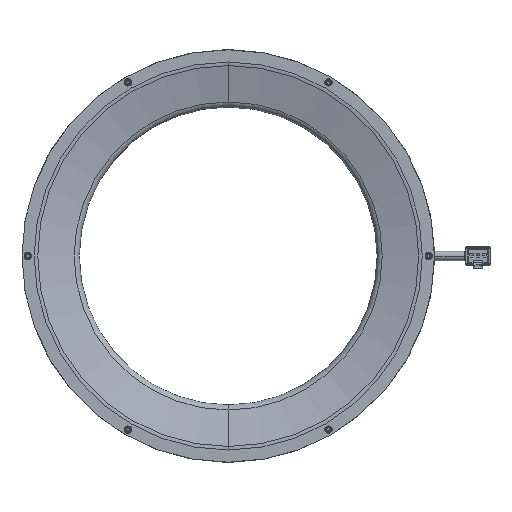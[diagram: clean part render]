
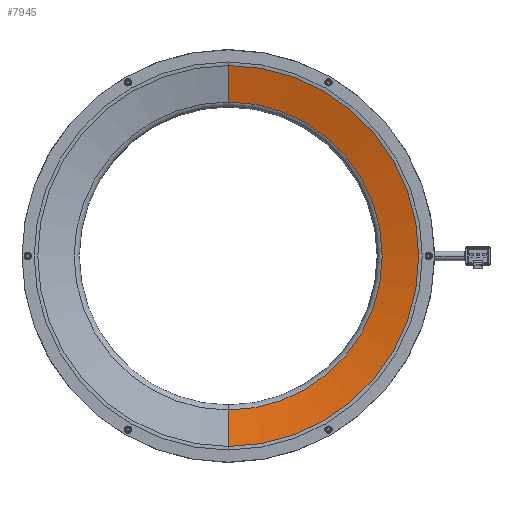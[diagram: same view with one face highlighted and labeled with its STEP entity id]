
A CAD part, front view. The second image highlights one B-rep face of the part: STEP entity #7945.
In plain terms, the highlighted conical face has half-angle 75 degrees and reference radius 67.224 mm.
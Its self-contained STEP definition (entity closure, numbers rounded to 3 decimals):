
#114 = DIRECTION ( 'NONE',  ( 0., -0.259, -0.966 ) ) ;
#189 = CARTESIAN_POINT ( 'NONE',  ( 0., -19.796, -83.131 ) ) ;
#362 = CIRCLE ( 'NONE', #765, 67.224 ) ;
#637 = EDGE_CURVE ( 'NONE', #9530, #4221, #362, .T. ) ;
#765 = AXIS2_PLACEMENT_3D ( 'NONE', #3495, #8397, #8541 ) ;
#844 = AXIS2_PLACEMENT_3D ( 'NONE', #1040, #1077, #3347 ) ;
#921 = EDGE_LOOP ( 'NONE', ( #7756, #3966, #2299, #4953 ) ) ;
#1040 = CARTESIAN_POINT ( 'NONE',  ( 0., -15.533, 0. ) ) ;
#1077 = DIRECTION ( 'NONE',  ( 0., -1., 0. ) ) ;
#1214 = DIRECTION ( 'NONE',  ( 0., -0.259, 0.966 ) ) ;
#2299 = ORIENTED_EDGE ( 'NONE', *, *, #6348, .T. ) ;
#2551 = LINE ( 'NONE', #10116, #2808 ) ;
#2645 = VERTEX_POINT ( 'NONE', #189 ) ;
#2808 = VECTOR ( 'NONE', #1214, 1000. ) ;
#3107 = DIRECTION ( 'NONE',  ( 0., 1., 0. ) ) ;
#3347 = DIRECTION ( 'NONE',  ( 0., 0., -1. ) ) ;
#3495 = CARTESIAN_POINT ( 'NONE',  ( 0., -15.533, 0. ) ) ;
#3966 = ORIENTED_EDGE ( 'NONE', *, *, #637, .T. ) ;
#4038 = CARTESIAN_POINT ( 'NONE',  ( 0., -19.796, 0. ) ) ;
#4221 = VERTEX_POINT ( 'NONE', #6673 ) ;
#4485 = CIRCLE ( 'NONE', #7801, 83.131 ) ;
#4953 = ORIENTED_EDGE ( 'NONE', *, *, #9709, .F. ) ;
#4971 = LINE ( 'NONE', #8184, #6252 ) ;
#5200 = FACE_OUTER_BOUND ( 'NONE', #921, .T. ) ;
#5955 = EDGE_CURVE ( 'NONE', #9530, #7530, #2551, .T. ) ;
#6252 = VECTOR ( 'NONE', #114, 1000. ) ;
#6348 = EDGE_CURVE ( 'NONE', #4221, #2645, #4971, .T. ) ;
#6497 = DIRECTION ( 'NONE',  ( 0., 0., 1. ) ) ;
#6673 = CARTESIAN_POINT ( 'NONE',  ( 0., -15.533, -67.224 ) ) ;
#6699 = CARTESIAN_POINT ( 'NONE',  ( 0., -15.533, 67.224 ) ) ;
#7530 = VERTEX_POINT ( 'NONE', #10120 ) ;
#7756 = ORIENTED_EDGE ( 'NONE', *, *, #5955, .F. ) ;
#7801 = AXIS2_PLACEMENT_3D ( 'NONE', #4038, #3107, #6497 ) ;
#7945 = ADVANCED_FACE ( 'NONE', ( #5200 ), #10265, .F. ) ;
#8184 = CARTESIAN_POINT ( 'NONE',  ( 0., -15.533, -67.224 ) ) ;
#8397 = DIRECTION ( 'NONE',  ( 0., 1., 0. ) ) ;
#8541 = DIRECTION ( 'NONE',  ( 0., 0., 1. ) ) ;
#9530 = VERTEX_POINT ( 'NONE', #6699 ) ;
#9709 = EDGE_CURVE ( 'NONE', #7530, #2645, #4485, .T. ) ;
#10116 = CARTESIAN_POINT ( 'NONE',  ( 0., -15.533, 67.224 ) ) ;
#10120 = CARTESIAN_POINT ( 'NONE',  ( 0., -19.796, 83.131 ) ) ;
#10265 = CONICAL_SURFACE ( 'NONE', #844, 67.224, 1.309 ) ;
